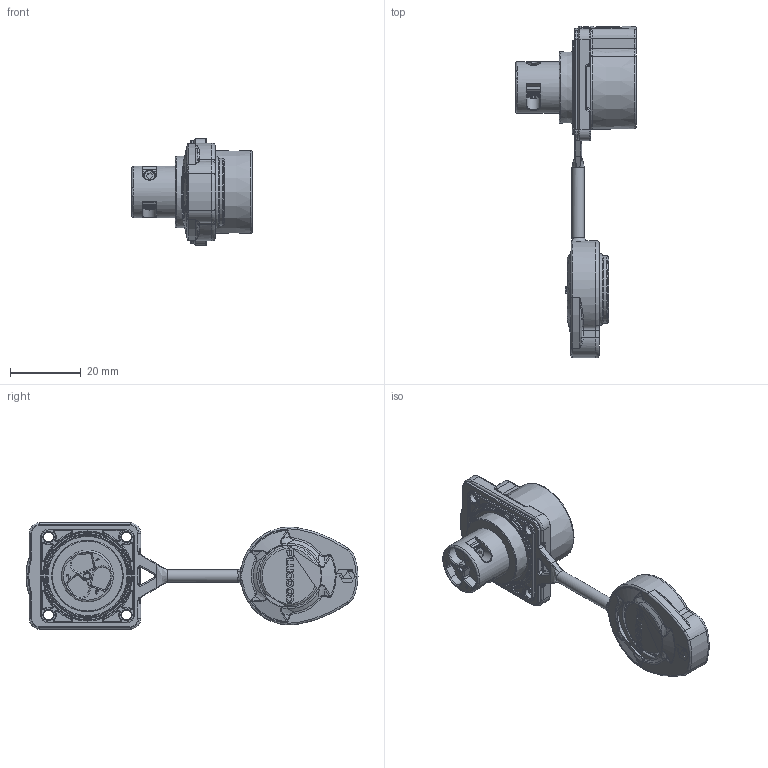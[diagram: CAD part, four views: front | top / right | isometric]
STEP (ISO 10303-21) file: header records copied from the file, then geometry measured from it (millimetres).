
FILE_DESCRIPTION (( 'STEP AP203' ), '1' );
FILE_NAME ('PLG20 3芯锁螺丝四孔插座.STEP', '2025-03-20T06:27:40', ( '' ), ( '' ), 'SwSTEP 2.0', 'SolidWorks 2024', '' );
FILE_SCHEMA (( 'CONFIG_CONTROL_DESIGN' ));
Length unit declared in the file: millimetre
Products named in the file (1): PLG20 3芯锁螺丝四孔插座
Bounding box: 34 x 93.64 x 30 mm (x, y, z)
Volume: 14451.2 mm3; surface area: 12912.4 mm2
Topology: 6 solids, 16 shells, 1489 faces, 3732 edges, 2322 vertices
Faces by surface type: bspline 428, plane 391, cylinder 367, torus 217, cone 76, sphere 10
Full cylindrical faces by diameter (mm): 1.061 x1, 1.5 x1, 2.088 x1, 2.8 x4, 3.3 x4, 3.4 x3, 3.5 x1, 3.7 x1, 4.6 x6, 4.65 x6, 6 x4, 14.6 x1, 16.5 x1, 19.1 x4, 22.3 x1, 23.5 x1, 25 x1
Entity records: 90778 total; most frequent: CARTESIAN_POINT 59514, ORIENTED_EDGE 7200, DIRECTION 5370, EDGE_CURVE 3600, VERTEX_POINT 2294, AXIS2_PLACEMENT_3D 2110, EDGE_LOOP 1668, FACE_OUTER_BOUND 1552
